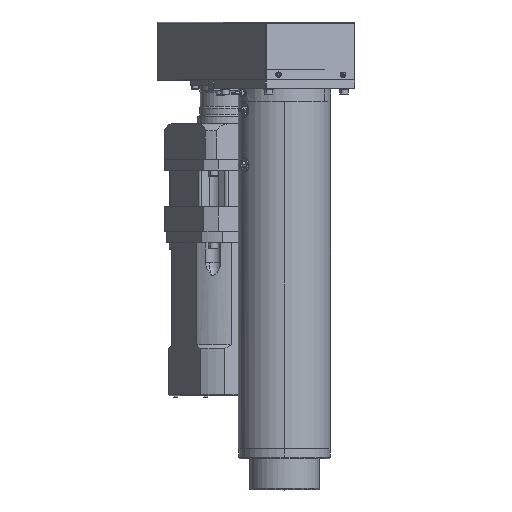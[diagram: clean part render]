
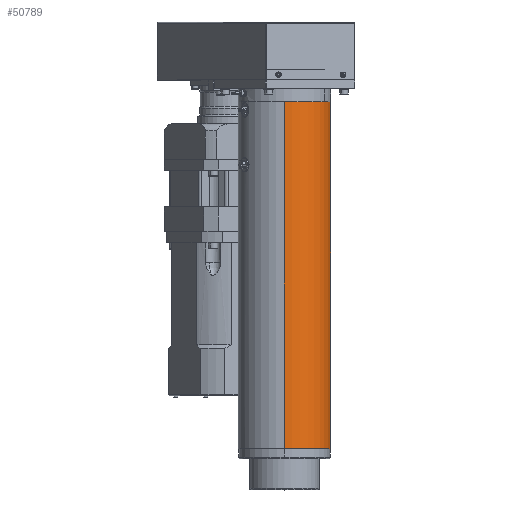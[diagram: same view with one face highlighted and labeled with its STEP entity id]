
A CAD part, top view. The second image highlights one B-rep face of the part: STEP entity #50789.
In plain terms, the highlighted cylindrical face has radius 89 mm (diameter 178 mm), a partial arc.
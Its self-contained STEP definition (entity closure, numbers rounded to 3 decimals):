
#276 = EDGE_CURVE ( 'NONE', #41748, #9559, #23118, .T. ) ;
#1302 = ORIENTED_EDGE ( 'NONE', *, *, #32961, .T. ) ;
#2006 = LINE ( 'NONE', #11504, #12650 ) ;
#3017 = CYLINDRICAL_SURFACE ( 'NONE', #5659, 89. ) ;
#4115 = CIRCLE ( 'NONE', #24336, 89. ) ;
#4675 = CARTESIAN_POINT ( 'NONE',  ( 0., 0., 89. ) ) ;
#5400 = EDGE_CURVE ( 'NONE', #50873, #41748, #2006, .T. ) ;
#5659 = AXIS2_PLACEMENT_3D ( 'NONE', #8268, #24379, #40368 ) ;
#6158 = EDGE_LOOP ( 'NONE', ( #1302, #17973, #25191, #13547 ) ) ;
#8268 = CARTESIAN_POINT ( 'NONE',  ( 0., 0., 0. ) ) ;
#8522 = VECTOR ( 'NONE', #28608, 1000. ) ;
#9559 = VERTEX_POINT ( 'NONE', #13108 ) ;
#9765 = CARTESIAN_POINT ( 'NONE',  ( 0., 20., 0. ) ) ;
#11504 = CARTESIAN_POINT ( 'NONE',  ( 0., 0., -89. ) ) ;
#12650 = VECTOR ( 'NONE', #43587, 1000. ) ;
#13108 = CARTESIAN_POINT ( 'NONE',  ( 0., 20., 89. ) ) ;
#13547 = ORIENTED_EDGE ( 'NONE', *, *, #5400, .F. ) ;
#13825 = DIRECTION ( 'NONE',  ( 0., 0., -1. ) ) ;
#17432 = CARTESIAN_POINT ( 'NONE',  ( 0., 20., -89. ) ) ;
#17973 = ORIENTED_EDGE ( 'NONE', *, *, #29221, .T. ) ;
#23118 = CIRCLE ( 'NONE', #46820, 89. ) ;
#23157 = CARTESIAN_POINT ( 'NONE',  ( 0., 690., 0. ) ) ;
#24336 = AXIS2_PLACEMENT_3D ( 'NONE', #23157, #51123, #27166 ) ;
#24379 = DIRECTION ( 'NONE',  ( 0., -1., 0. ) ) ;
#25191 = ORIENTED_EDGE ( 'NONE', *, *, #276, .F. ) ;
#27166 = DIRECTION ( 'NONE',  ( 0., 0., -1. ) ) ;
#28608 = DIRECTION ( 'NONE',  ( 0., -1., 0. ) ) ;
#29221 = EDGE_CURVE ( 'NONE', #47516, #9559, #40529, .T. ) ;
#32961 = EDGE_CURVE ( 'NONE', #50873, #47516, #4115, .T. ) ;
#37806 = DIRECTION ( 'NONE',  ( 0., -1., 0. ) ) ;
#40368 = DIRECTION ( 'NONE',  ( 0., 0., -1. ) ) ;
#40529 = LINE ( 'NONE', #4675, #8522 ) ;
#41748 = VERTEX_POINT ( 'NONE', #17432 ) ;
#43587 = DIRECTION ( 'NONE',  ( 0., -1., 0. ) ) ;
#44402 = CARTESIAN_POINT ( 'NONE',  ( 0., 690., 89. ) ) ;
#45577 = FACE_OUTER_BOUND ( 'NONE', #6158, .T. ) ;
#46820 = AXIS2_PLACEMENT_3D ( 'NONE', #9765, #37806, #13825 ) ;
#47516 = VERTEX_POINT ( 'NONE', #44402 ) ;
#48872 = CARTESIAN_POINT ( 'NONE',  ( 0., 690., -89. ) ) ;
#50789 = ADVANCED_FACE ( 'NONE', ( #45577 ), #3017, .T. ) ;
#50873 = VERTEX_POINT ( 'NONE', #48872 ) ;
#51123 = DIRECTION ( 'NONE',  ( 0., -1., 0. ) ) ;
